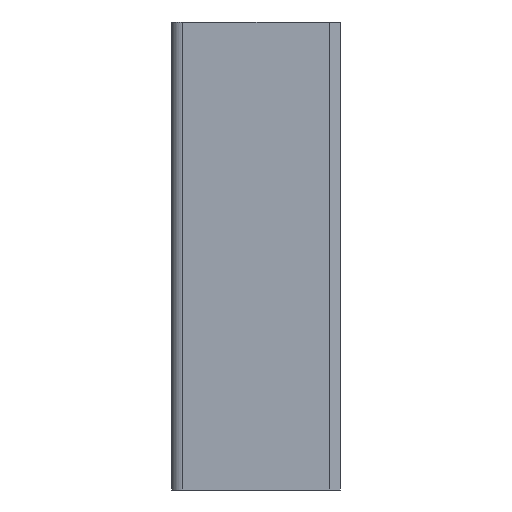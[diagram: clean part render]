
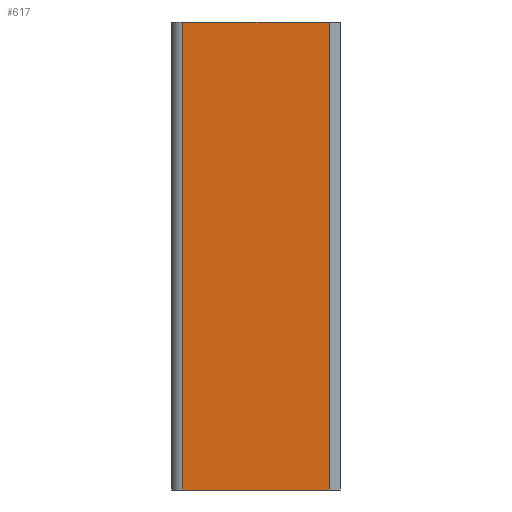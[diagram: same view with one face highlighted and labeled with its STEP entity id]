
A CAD part, left-side view. The second image highlights one B-rep face of the part: STEP entity #617.
In plain terms, the highlighted planar face has unit normal (-1, 0, 0).
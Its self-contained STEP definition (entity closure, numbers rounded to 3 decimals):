
#97=CARTESIAN_POINT('Line Origine',(0.,22.5,0.)) ;
#101=CARTESIAN_POINT('Vertex',(0.,42.,0.)) ;
#103=CARTESIAN_POINT('Vertex',(0.,3.,0.)) ;
#520=CARTESIAN_POINT('Line Origine',(0.,22.5,-125.)) ;
#524=CARTESIAN_POINT('Vertex',(0.,42.,-125.)) ;
#526=CARTESIAN_POINT('Vertex',(0.,3.,-125.)) ;
#596=CARTESIAN_POINT('Axis2P3D Location',(0.,42.,-125.)) ;
#601=CARTESIAN_POINT('Line Origine',(0.,42.,-62.5)) ;
#606=CARTESIAN_POINT('Line Origine',(0.,3.,-62.5)) ;
#98=DIRECTION('Vector Direction',(0.,-1.,0.)) ;
#521=DIRECTION('Vector Direction',(0.,-1.,0.)) ;
#597=DIRECTION('Axis2P3D Direction',(-1.,0.,0.)) ;
#598=DIRECTION('Axis2P3D XDirection',(0.,0.,1.)) ;
#602=DIRECTION('Vector Direction',(0.,0.,1.)) ;
#607=DIRECTION('Vector Direction',(0.,0.,1.)) ;
#599=AXIS2_PLACEMENT_3D('Plane Axis2P3D',#596,#597,#598) ;
#612=ORIENTED_EDGE('',*,*,#105,.F.) ;
#613=ORIENTED_EDGE('',*,*,#605,.F.) ;
#614=ORIENTED_EDGE('',*,*,#528,.T.) ;
#615=ORIENTED_EDGE('',*,*,#610,.T.) ;
#99=VECTOR('Line Direction',#98,1.) ;
#522=VECTOR('Line Direction',#521,1.) ;
#603=VECTOR('Line Direction',#602,1.) ;
#608=VECTOR('Line Direction',#607,1.) ;
#617=ADVANCED_FACE('A935-12517045',(#616),#600,.T.) ;
#105=EDGE_CURVE('',#102,#104,#100,.T.) ;
#528=EDGE_CURVE('',#525,#527,#523,.T.) ;
#605=EDGE_CURVE('',#525,#102,#604,.T.) ;
#610=EDGE_CURVE('',#527,#104,#609,.T.) ;
#611=EDGE_LOOP('',(#612,#613,#614,#615)) ;
#616=FACE_OUTER_BOUND('',#611,.T.) ;
#100=LINE('Line',#97,#99) ;
#523=LINE('Line',#520,#522) ;
#604=LINE('Line',#601,#603) ;
#609=LINE('Line',#606,#608) ;
#600=PLANE('Plane',#599) ;
#102=VERTEX_POINT('',#101) ;
#104=VERTEX_POINT('',#103) ;
#525=VERTEX_POINT('',#524) ;
#527=VERTEX_POINT('',#526) ;
